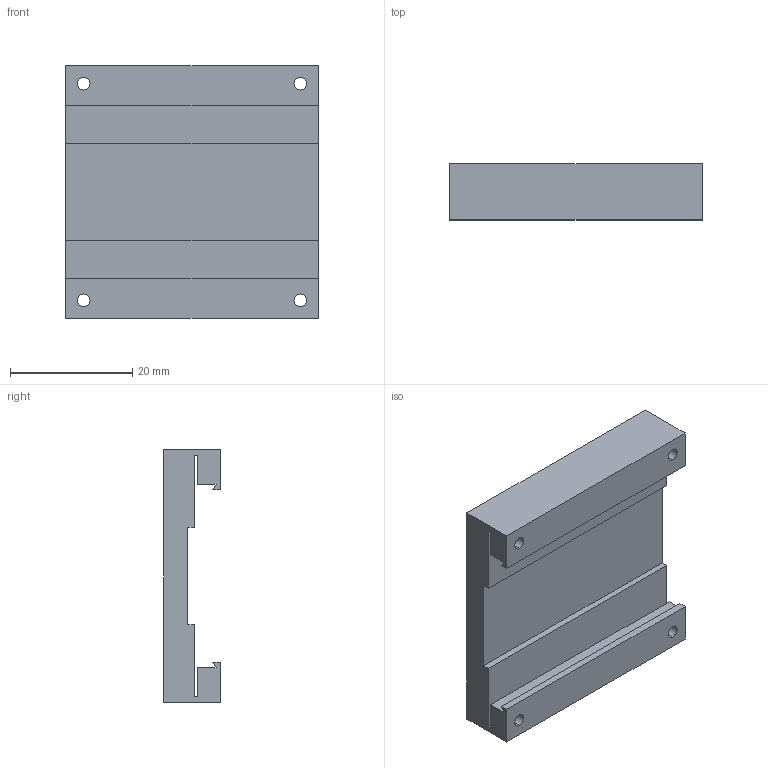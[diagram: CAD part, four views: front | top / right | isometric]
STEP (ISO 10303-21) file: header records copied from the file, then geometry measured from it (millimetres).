
FILE_DESCRIPTION (( 'STEP AP203' ), '1' );
FILE_NAME ('Montageplatte M 30.STEP', '2002-07-08T13:21:43', ( '' ), ( '' ), 'SwSTEP 2.0', 'SolidWorks 2002127', '' );
FILE_SCHEMA (( 'CONFIG_CONTROL_DESIGN' ));
Length unit declared in the file: millimetre
Products named in the file (1): Montageplatte M 30
Bounding box: 41.2 x 9.2 x 41.2 mm (x, y, z)
Volume: 9277 mm3; surface area: 6279.9 mm2
Topology: 1 solids, 1 shells, 50 faces, 132 edges, 88 vertices
Faces by surface type: plane 26, cylinder 24
Entity records: 1673 total; most frequent: DIRECTION 282, CARTESIAN_POINT 271, ORIENTED_EDGE 264, EDGE_CURVE 132, AXIS2_PLACEMENT_3D 99, VERTEX_POINT 88, LINE 84, VECTOR 84
